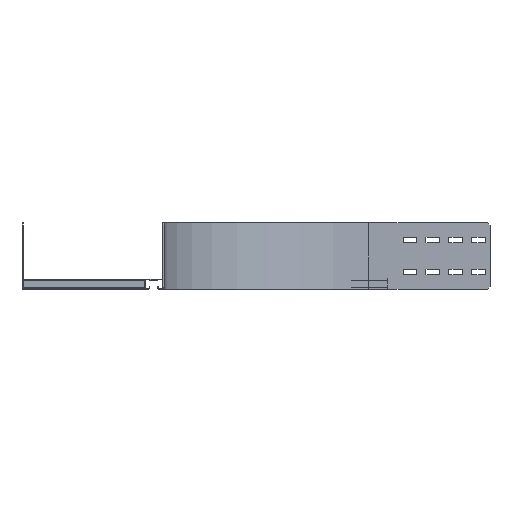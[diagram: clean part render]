
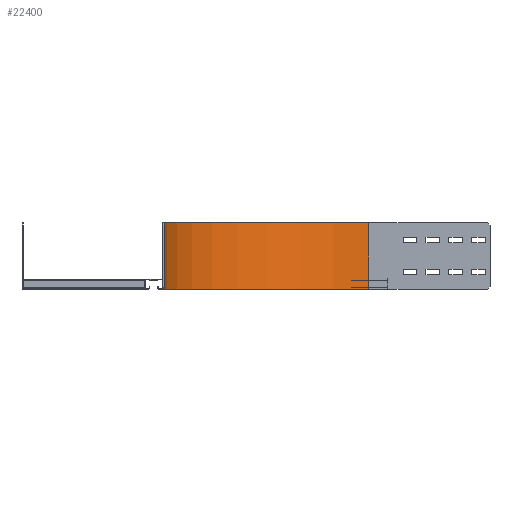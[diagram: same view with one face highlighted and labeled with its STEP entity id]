
A CAD part, left-side view. The second image highlights one B-rep face of the part: STEP entity #22400.
In plain terms, the highlighted cylindrical face has radius 447 mm (diameter 894 mm), a partial arc.
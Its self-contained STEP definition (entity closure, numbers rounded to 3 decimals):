
#60=CARTESIAN_POINT('',(0.,-450.,0.));
#70=DIRECTION('',(0.,0.,-1.));
#80=DIRECTION('',(-1.,0.,0.));
#90=AXIS2_PLACEMENT_3D('',#60,#70,#80);
#100=CIRCLE('',#90,447.);
#110=CARTESIAN_POINT('',(0.,-3.,0.));
#120=VERTEX_POINT('',#110);
#130=CARTESIAN_POINT('',(447.,-450.,0.));
#140=VERTEX_POINT('',#130);
#150=EDGE_CURVE('',#120,#140,#100,.T.);
#4210=CARTESIAN_POINT('',(0.,-3.,-145.));
#4220=VERTEX_POINT('',#4210);
#4250=CARTESIAN_POINT('',(0.,-450.,-145.));
#4260=DIRECTION('',(0.,0.,-1.));
#4270=DIRECTION('',(-1.,0.,0.));
#4280=AXIS2_PLACEMENT_3D('',#4250,#4260,#4270);
#4290=CIRCLE('',#4280,447.);
#4300=CARTESIAN_POINT('',(447.,-450.,-145.));
#4310=VERTEX_POINT('',#4300);
#4320=EDGE_CURVE('',#4220,#4310,#4290,.T.);
#7980=CARTESIAN_POINT('',(447.,-450.,0.));
#7990=DIRECTION('',(0.,0.,-1.));
#8000=VECTOR('',#7990,1.);
#8010=LINE('',#7980,#8000);
#8020=EDGE_CURVE('',#140,#4310,#8010,.T.);
#13780=CARTESIAN_POINT('',(0.,-3.,0.));
#13790=DIRECTION('',(0.,0.,-1.));
#13800=VECTOR('',#13790,1.);
#13810=LINE('',#13780,#13800);
#13820=EDGE_CURVE('',#120,#4220,#13810,.T.);
#22290=CARTESIAN_POINT('',(0.,-450.,0.));
#22300=DIRECTION('',(0.,0.,-1.));
#22310=DIRECTION('',(-1.,0.,0.));
#22320=AXIS2_PLACEMENT_3D('',#22290,#22300,#22310);
#22330=CYLINDRICAL_SURFACE('',#22320,447.);
#22340=ORIENTED_EDGE('',*,*,#150,.F.);
#22350=ORIENTED_EDGE('',*,*,#8020,.F.);
#22360=ORIENTED_EDGE('',*,*,#4320,.T.);
#22370=ORIENTED_EDGE('',*,*,#13820,.T.);
#22380=EDGE_LOOP('',(#22370,#22360,#22350,#22340));
#22390=FACE_OUTER_BOUND('',#22380,.T.);
#22400=ADVANCED_FACE('',(#22390),#22330,.F.);
